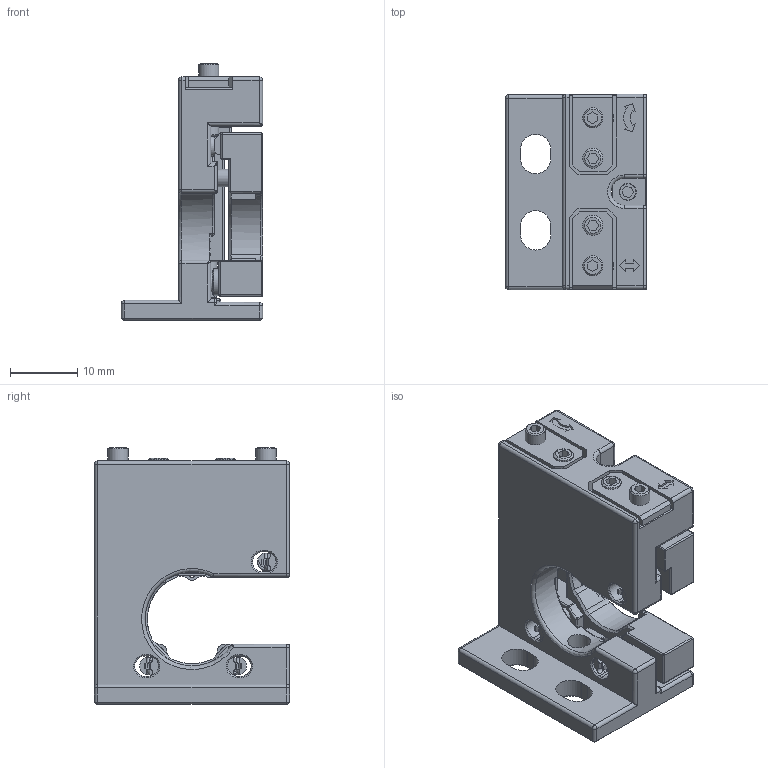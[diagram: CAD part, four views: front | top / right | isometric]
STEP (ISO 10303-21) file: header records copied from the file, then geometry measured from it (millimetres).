
FILE_DESCRIPTION(/* description */ (''),/* implementation_level */ '2;1');
FILE_NAME(/* name */ 'VMHV-127L-R-NM_STP.stp',/* time_stamp */ '2025-05-13T16:34:00+09:00',/* author */ ('e.nonaka'),/* organization */ (''),/* preprocessor_version */ 'ST-DEVELOPER v19.2',/* originating_system */ 'Autodesk Inventor 2023',/* authorisation */ '');
FILE_SCHEMA (('AUTOMOTIVE_DESIGN { 1 0 10303 214 3 1 1 }'));
Length unit declared in the file: millimetre
Products named in the file (6): VV12LRNM-M02-25001-TS01; MHV12.7L-M02-22001-S01; MHV12.7L-M02-22001-S03; MHV12.7L-M03-22005　A; SBM-CER-3; MHV12.7LR-M02-22001-S02
Assembly tree (6 placements, depth 2):
  VV12LRNM-M02-25001-TS01
    MHV12.7L-M02-22001-S01
    MHV12.7L-M02-22001-S03
    MHV12.7L-M03-22005　A
    SBM-CER-3  x2
    MHV12.7LR-M02-22001-S02
Bounding box: 21 x 29 x 38.2 mm (x, y, z)
Volume: 8597.2 mm3; surface area: 8122.8 mm2
Topology: 9 solids, 13 shells, 856 faces, 2132 edges, 1321 vertices
Faces by surface type: plane 435, cylinder 237, cone 72, sphere 44, bspline 39, torus 29
Full cylindrical faces by diameter (mm): 1 x3, 1.5 x2, 1.6 x1, 2 x2, 2.4 x2, 2.5 x3, 2.615 x3, 2.8 x4, 3 x7, 3.2 x2, 3.3 x1, 3.4 x1, 4 x1, 4.4 x2, 4.5 x4, 6 x2, 6.1 x2
Entity records: 26591 total; most frequent: CARTESIAN_POINT 5846, DIRECTION 4342, ORIENTED_EDGE 4220, EDGE_CURVE 2110, AXIS2_PLACEMENT_3D 1505, LINE 1332, VECTOR 1332, VERTEX_POINT 1319
